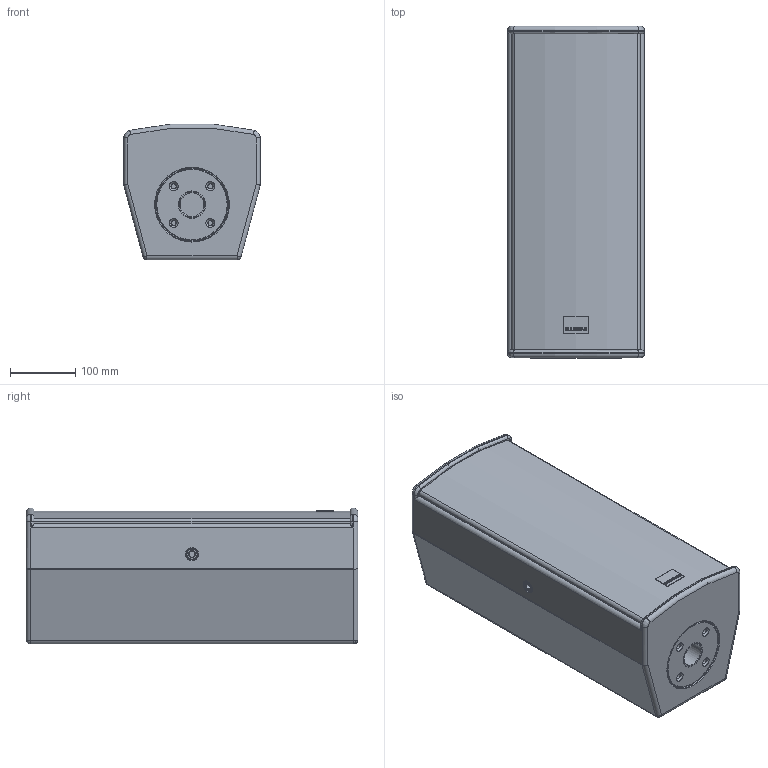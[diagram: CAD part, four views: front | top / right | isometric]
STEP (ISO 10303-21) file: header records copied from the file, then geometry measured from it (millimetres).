
FILE_DESCRIPTION (( 'STEP AP203' ), '1' );
FILE_NAME ('SEEBURG_A2.STEP', '2012-09-27T13:22:04', ( 'Fabian' ), ( '' ), 'SwSTEP 2.0', 'SolidWorks 2009', '' );
FILE_SCHEMA (( 'CONFIG_CONTROL_DESIGN' ));
Length unit declared in the file: millimetre
Products named in the file (2): A2; SEEBURG_A2
Assembly tree (1 placements, depth 2):
  SEEBURG_A2
    A2
Bounding box: 210 x 510 x 208.8 mm (x, y, z)
Volume: 7137126 mm3; surface area: 1133259.6 mm2
Topology: 16 solids, 16 shells, 411 faces, 1009 edges, 642 vertices
Faces by surface type: cylinder 172, plane 148, cone 48, torus 28, sphere 9, bspline 6
Entity records: 13184 total; most frequent: CARTESIAN_POINT 3064, DIRECTION 2193, ORIENTED_EDGE 2006, EDGE_CURVE 1003, AXIS2_PLACEMENT_3D 843, VERTEX_POINT 639, VECTOR 507, LINE 507
